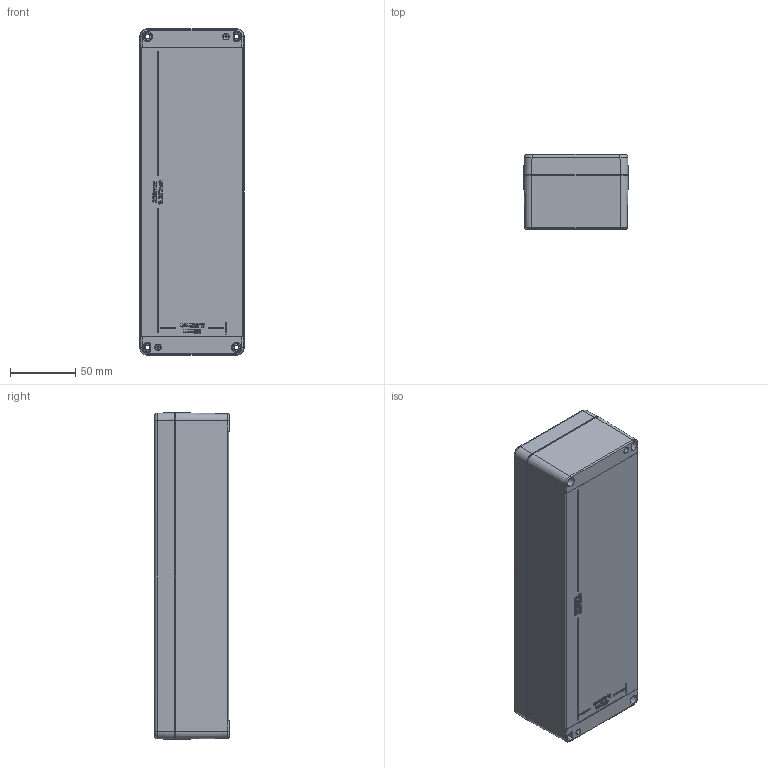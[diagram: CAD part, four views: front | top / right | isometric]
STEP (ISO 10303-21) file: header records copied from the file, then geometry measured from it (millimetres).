
FILE_DESCRIPTION (( 'STEP AP203' ), '1' );
FILE_NAME ('BB035.STEP', '2024-12-26T16:31:51', ( '' ), ( '' ), 'SwSTEP 2.0', 'SolidWorks 2019', '' );
FILE_SCHEMA (( 'CONFIG_CONTROL_DESIGN' ));
Length unit declared in the file: millimetre
Products named in the file (3): BASE_250_80_57; BB035; LID_250_80_57
Assembly tree (2 placements, depth 2):
  BB035
    BASE_250_80_57
    LID_250_80_57
Bounding box: 80 x 57 x 250 mm (x, y, z)
Volume: 266371.3 mm3; surface area: 155834.3 mm2
Topology: 2 solids, 2 shells, 997 faces, 2564 edges, 1640 vertices
Faces by surface type: plane 441, bspline 215, cone 168, cylinder 115, torus 58
Entity records: 46607 total; most frequent: CARTESIAN_POINT 24198, ORIENTED_EDGE 5104, DIRECTION 3631, EDGE_CURVE 2552, VERTEX_POINT 1640, LINE 1367, VECTOR 1367, AXIS2_PLACEMENT_3D 1132
